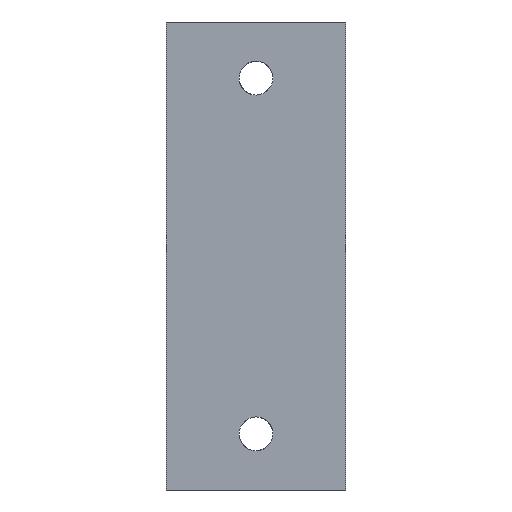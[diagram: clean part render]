
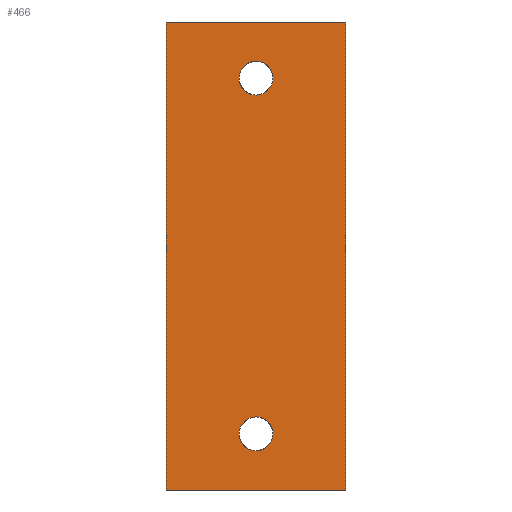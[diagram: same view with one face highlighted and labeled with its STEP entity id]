
A CAD part, front view. The second image highlights one B-rep face of the part: STEP entity #466.
In plain terms, the highlighted face is a extrusion surface.
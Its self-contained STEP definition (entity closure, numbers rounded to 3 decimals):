
#355=CARTESIAN_POINT('Control Point',(-48.,0.,0.)) ;
#356=CARTESIAN_POINT('Control Point',(-48.,0.,-125.)) ;
#360=CARTESIAN_POINT('Line Origine',(-24.,0.,-125.)) ;
#364=CARTESIAN_POINT('Vertex',(-48.,0.,-125.)) ;
#366=CARTESIAN_POINT('Vertex',(0.,0.,-125.)) ;
#369=CARTESIAN_POINT('Line Origine',(0.,0.,-62.5)) ;
#373=CARTESIAN_POINT('Vertex',(0.,0.,0.)) ;
#376=CARTESIAN_POINT('Line Origine',(-24.,0.,0.)) ;
#380=CARTESIAN_POINT('Vertex',(-48.,0.,0.)) ;
#383=CARTESIAN_POINT('Line Origine',(-48.,0.,-62.5)) ;
#395=CARTESIAN_POINT('Control Point',(-19.5,0.,-110.)) ;
#396=CARTESIAN_POINT('Control Point',(-19.5,0.,-111.247)) ;
#397=CARTESIAN_POINT('Control Point',(-19.932,0.,-112.494)) ;
#398=CARTESIAN_POINT('Control Point',(-20.8,0.,-113.539)) ;
#399=CARTESIAN_POINT('Control Point',(-22.71,0.,-114.63)) ;
#400=CARTESIAN_POINT('Control Point',(-24.841,0.,-114.54)) ;
#401=CARTESIAN_POINT('Control Point',(-25.671,0.,-114.305)) ;
#402=CARTESIAN_POINT('Control Point',(-27.085,0.,-113.511)) ;
#403=CARTESIAN_POINT('Control Point',(-28.032,0.,-112.204)) ;
#404=CARTESIAN_POINT('Control Point',(-28.344,0.,-111.498)) ;
#405=CARTESIAN_POINT('Control Point',(-28.5,0.,-110.749)) ;
#406=CARTESIAN_POINT('Control Point',(-28.5,0.,-110.)) ;
#407=CARTESIAN_POINT('Vertex',(-19.5,0.,-110.)) ;
#409=CARTESIAN_POINT('Vertex',(-28.5,0.,-110.)) ;
#413=CARTESIAN_POINT('Control Point',(-28.5,0.,-110.)) ;
#414=CARTESIAN_POINT('Control Point',(-28.5,0.,-108.753)) ;
#415=CARTESIAN_POINT('Control Point',(-28.068,0.,-107.506)) ;
#416=CARTESIAN_POINT('Control Point',(-27.2,0.,-106.461)) ;
#417=CARTESIAN_POINT('Control Point',(-25.29,0.,-105.37)) ;
#418=CARTESIAN_POINT('Control Point',(-23.159,0.,-105.46)) ;
#419=CARTESIAN_POINT('Control Point',(-22.329,0.,-105.695)) ;
#420=CARTESIAN_POINT('Control Point',(-20.915,0.,-106.489)) ;
#421=CARTESIAN_POINT('Control Point',(-19.968,0.,-107.796)) ;
#422=CARTESIAN_POINT('Control Point',(-19.656,0.,-108.502)) ;
#423=CARTESIAN_POINT('Control Point',(-19.5,0.,-109.251)) ;
#424=CARTESIAN_POINT('Control Point',(-19.5,0.,-110.)) ;
#431=CARTESIAN_POINT('Control Point',(-19.5,0.,-15.)) ;
#432=CARTESIAN_POINT('Control Point',(-19.5,0.,-16.247)) ;
#433=CARTESIAN_POINT('Control Point',(-19.932,0.,-17.494)) ;
#434=CARTESIAN_POINT('Control Point',(-20.8,0.,-18.539)) ;
#435=CARTESIAN_POINT('Control Point',(-22.71,0.,-19.63)) ;
#436=CARTESIAN_POINT('Control Point',(-24.841,0.,-19.54)) ;
#437=CARTESIAN_POINT('Control Point',(-25.671,0.,-19.305)) ;
#438=CARTESIAN_POINT('Control Point',(-27.085,0.,-18.511)) ;
#439=CARTESIAN_POINT('Control Point',(-28.032,0.,-17.204)) ;
#440=CARTESIAN_POINT('Control Point',(-28.344,0.,-16.498)) ;
#441=CARTESIAN_POINT('Control Point',(-28.5,0.,-15.749)) ;
#442=CARTESIAN_POINT('Control Point',(-28.5,0.,-15.)) ;
#443=CARTESIAN_POINT('Vertex',(-19.5,0.,-15.)) ;
#445=CARTESIAN_POINT('Vertex',(-28.5,0.,-15.)) ;
#449=CARTESIAN_POINT('Control Point',(-28.5,0.,-15.)) ;
#450=CARTESIAN_POINT('Control Point',(-28.5,0.,-13.753)) ;
#451=CARTESIAN_POINT('Control Point',(-28.068,0.,-12.506)) ;
#452=CARTESIAN_POINT('Control Point',(-27.2,0.,-11.461)) ;
#453=CARTESIAN_POINT('Control Point',(-25.29,0.,-10.37)) ;
#454=CARTESIAN_POINT('Control Point',(-23.159,0.,-10.46)) ;
#455=CARTESIAN_POINT('Control Point',(-22.329,0.,-10.695)) ;
#456=CARTESIAN_POINT('Control Point',(-20.915,0.,-11.489)) ;
#457=CARTESIAN_POINT('Control Point',(-19.968,0.,-12.796)) ;
#458=CARTESIAN_POINT('Control Point',(-19.656,0.,-13.502)) ;
#459=CARTESIAN_POINT('Control Point',(-19.5,0.,-14.251)) ;
#460=CARTESIAN_POINT('Control Point',(-19.5,0.,-15.)) ;
#357=DIRECTION('Vector Direction',(1.,0.,0.)) ;
#361=DIRECTION('Vector Direction',(1.,0.,0.)) ;
#370=DIRECTION('Vector Direction',(0.,0.,-1.)) ;
#377=DIRECTION('Vector Direction',(1.,0.,0.)) ;
#384=DIRECTION('Vector Direction',(0.,0.,-1.)) ;
#389=ORIENTED_EDGE('',*,*,#368,.T.) ;
#390=ORIENTED_EDGE('',*,*,#375,.T.) ;
#391=ORIENTED_EDGE('',*,*,#382,.T.) ;
#392=ORIENTED_EDGE('',*,*,#387,.T.) ;
#427=ORIENTED_EDGE('',*,*,#411,.T.) ;
#428=ORIENTED_EDGE('',*,*,#425,.T.) ;
#463=ORIENTED_EDGE('',*,*,#447,.T.) ;
#464=ORIENTED_EDGE('',*,*,#461,.T.) ;
#429=FACE_BOUND('',#426,.T.) ;
#465=FACE_BOUND('',#462,.T.) ;
#358=VECTOR('Extrusion Surface Vector',#357,1.) ;
#362=VECTOR('Line Direction',#361,1.) ;
#371=VECTOR('Line Direction',#370,1.) ;
#378=VECTOR('Line Direction',#377,1.) ;
#385=VECTOR('Line Direction',#384,1.) ;
#466=ADVANCED_FACE('Superficie.6',(#393,#429,#465),#359,.T.) ;
#354=B_SPLINE_CURVE_WITH_KNOTS('',1,(#355,#356),.UNSPECIFIED.,.F.,.U.,(2,2),(-62.5,62.5),.UNSPECIFIED.) ;
#394=B_SPLINE_CURVE_WITH_KNOTS('',5,(#395,#396,#397,#398,#399,#400,#401,#402,#403,#404,#405,#406),.UNSPECIFIED.,.F.,.U.,(6,3,3,6),(0.,8.818,14.697,19.993),.UNSPECIFIED.) ;
#412=B_SPLINE_CURVE_WITH_KNOTS('',5,(#413,#414,#415,#416,#417,#418,#419,#420,#421,#422,#423,#424),.UNSPECIFIED.,.F.,.U.,(6,3,3,6),(0.,8.818,14.697,19.993),.UNSPECIFIED.) ;
#430=B_SPLINE_CURVE_WITH_KNOTS('',5,(#431,#432,#433,#434,#435,#436,#437,#438,#439,#440,#441,#442),.UNSPECIFIED.,.F.,.U.,(6,3,3,6),(0.,8.818,14.697,19.993),.UNSPECIFIED.) ;
#448=B_SPLINE_CURVE_WITH_KNOTS('',5,(#449,#450,#451,#452,#453,#454,#455,#456,#457,#458,#459,#460),.UNSPECIFIED.,.F.,.U.,(6,3,3,6),(0.,8.818,14.697,19.993),.UNSPECIFIED.) ;
#368=EDGE_CURVE('',#365,#367,#363,.T.) ;
#375=EDGE_CURVE('',#367,#374,#372,.F.) ;
#382=EDGE_CURVE('',#374,#381,#379,.F.) ;
#387=EDGE_CURVE('',#381,#365,#386,.T.) ;
#411=EDGE_CURVE('',#408,#410,#394,.T.) ;
#425=EDGE_CURVE('',#410,#408,#412,.T.) ;
#447=EDGE_CURVE('',#444,#446,#430,.T.) ;
#461=EDGE_CURVE('',#446,#444,#448,.T.) ;
#388=EDGE_LOOP('',(#389,#390,#391,#392)) ;
#426=EDGE_LOOP('',(#427,#428)) ;
#462=EDGE_LOOP('',(#463,#464)) ;
#393=FACE_OUTER_BOUND('',#388,.T.) ;
#363=LINE('Line',#360,#362) ;
#372=LINE('Line',#369,#371) ;
#379=LINE('Line',#376,#378) ;
#386=LINE('Line',#383,#385) ;
#359=SURFACE_OF_LINEAR_EXTRUSION('generated tabulated cylinder',#354,#358) ;
#365=VERTEX_POINT('',#364) ;
#367=VERTEX_POINT('',#366) ;
#374=VERTEX_POINT('',#373) ;
#381=VERTEX_POINT('',#380) ;
#408=VERTEX_POINT('',#407) ;
#410=VERTEX_POINT('',#409) ;
#444=VERTEX_POINT('',#443) ;
#446=VERTEX_POINT('',#445) ;
